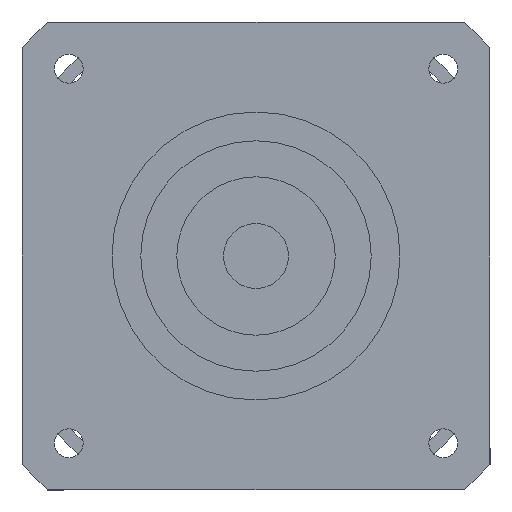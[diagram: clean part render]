
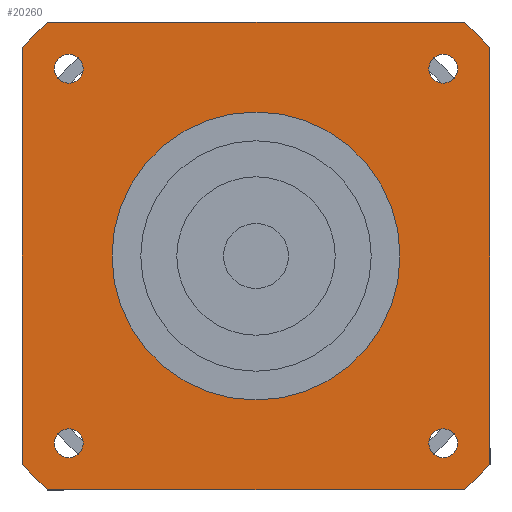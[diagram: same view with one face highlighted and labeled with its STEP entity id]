
A CAD part, left-side view. The second image highlights one B-rep face of the part: STEP entity #20260.
In plain terms, the highlighted planar face has unit normal (-1, 0, 0) as drawn and (0, 0, -1) by its records, which use the part's own axes.
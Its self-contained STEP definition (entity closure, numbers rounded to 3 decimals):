
#11110=CARTESIAN_POINT('',(-32.5,-28.914,-58.));
#11120=VERTEX_POINT('',#11110);
#11280=CARTESIAN_POINT('',(-28.914,-32.5,-58.));
#11290=VERTEX_POINT('',#11280);
#11320=CARTESIAN_POINT('',(0.,0.,
-58.));
#11330=DIRECTION('',(0.,0.,1.));
#11340=DIRECTION('',(0.,-1.,0.));
#11350=AXIS2_PLACEMENT_3D('',#11320,#11330,#11340);
#11360=CIRCLE('',#11350,43.5);
#11370=EDGE_CURVE('',#11120,#11290,#11360,.T.);
#12870=CARTESIAN_POINT('',(-32.5,28.914,-58.));
#12880=VERTEX_POINT('',#12870);
#12980=CARTESIAN_POINT('',(-32.5,32.5,-58.));
#12990=DIRECTION('',(0.,-1.,0.));
#13000=VECTOR('',#12990,1000.);
#13010=LINE('',#12980,#13000);
#13020=EDGE_CURVE('',#12880,#11120,#13010,.T.);
#17850=CARTESIAN_POINT('',(-28.914,32.5,-58.));
#17860=VERTEX_POINT('',#17850);
#17910=CARTESIAN_POINT('',(0.,0.,
-58.));
#17920=DIRECTION('',(0.,0.,1.));
#17930=DIRECTION('',(0.,-1.,0.));
#17940=AXIS2_PLACEMENT_3D('',#17910,#17920,#17930);
#17950=CIRCLE('',#17940,43.5);
#17960=EDGE_CURVE('',#17860,#12880,#17950,.T.);
#18100=CARTESIAN_POINT('',(28.914,32.5,-58.));
#18110=VERTEX_POINT('',#18100);
#18160=CARTESIAN_POINT('',(32.5,32.5,-58.));
#18170=DIRECTION('',(-1.,0.,0.));
#18180=VECTOR('',#18170,1000.);
#18190=LINE('',#18160,#18180);
#18200=EDGE_CURVE('',#18110,#17860,#18190,.T.);
#18310=CARTESIAN_POINT('',(0.,0.,
-58.));
#18320=DIRECTION('',(0.,0.,1.));
#18330=DIRECTION('',(0.,-1.,0.));
#18340=AXIS2_PLACEMENT_3D('',#18310,#18320,#18330);
#18350=CIRCLE('',#18340,43.5);
#18360=CARTESIAN_POINT('',(32.5,28.914,-58.));
#18370=VERTEX_POINT('',#18360);
#18380=EDGE_CURVE('',#18370,#18110,#18350,.T.);
#18590=CARTESIAN_POINT('',(32.5,-28.914,-58.));
#18600=VERTEX_POINT('',#18590);
#18650=CARTESIAN_POINT('',(32.5,-32.5,-58.));
#18660=DIRECTION('',(0.,1.,0.));
#18670=VECTOR('',#18660,1000.);
#18680=LINE('',#18650,#18670);
#18690=EDGE_CURVE('',#18600,#18370,#18680,.T.);
#18830=CARTESIAN_POINT('',(28.914,-32.5,-58.));
#18840=VERTEX_POINT('',#18830);
#18890=CARTESIAN_POINT('',(0.,0.,
-58.));
#18900=DIRECTION('',(0.,0.,1.));
#18910=DIRECTION('',(0.,-1.,0.));
#18920=AXIS2_PLACEMENT_3D('',#18890,#18900,#18910);
#18930=CIRCLE('',#18920,43.5);
#18940=EDGE_CURVE('',#18840,#18600,#18930,.T.);
#19070=CARTESIAN_POINT('',(-32.5,-32.5,-58.));
#19080=DIRECTION('',(1.,0.,0.));
#19090=VECTOR('',#19080,1000.);
#19100=LINE('',#19070,#19090);
#19110=EDGE_CURVE('',#11290,#18840,#19100,.T.);
#19160=CARTESIAN_POINT('',(-32.5,32.5,-58.));
#19170=DIRECTION('',(0.,0.,1.));
#19180=DIRECTION('',(-1.,0.,0.));
#19190=AXIS2_PLACEMENT_3D('',#19160,#19170,#19180);
#19200=PLANE('',#19190);
#19210=CARTESIAN_POINT('',(26.,-26.,-58.));
#19220=DIRECTION('',(0.,0.,-1.));
#19230=DIRECTION('',(1.,0.,0.));
#19240=AXIS2_PLACEMENT_3D('',#19210,#19220,#19230);
#19250=CIRCLE('',#19240,2.);
#19260=CARTESIAN_POINT('',(28.,-26.,-58.));
#19270=VERTEX_POINT('',#19260);
#19280=CARTESIAN_POINT('',(26.,-28.,-58.));
#19290=VERTEX_POINT('',#19280);
#19300=EDGE_CURVE('',#19270,#19290,#19250,.T.);
#19310=ORIENTED_EDGE('',*,*,#19300,.F.);
#19320=CARTESIAN_POINT('',(26.,-24.,-58.));
#19330=VERTEX_POINT('',#19320);
#19340=EDGE_CURVE('',#19290,#19330,#19250,.T.);
#19350=ORIENTED_EDGE('',*,*,#19340,.F.);
#19360=EDGE_CURVE('',#19330,#19270,#19250,.T.);
#19370=ORIENTED_EDGE('',*,*,#19360,.F.);
#19380=EDGE_LOOP('',(#19370,#19350,#19310));
#19390=FACE_BOUND('',#19380,.T.);
#19400=CARTESIAN_POINT('',(26.,26.,-58.));
#19410=DIRECTION('',(0.,0.,-1.));
#19420=DIRECTION('',(0.,1.,0.));
#19430=AXIS2_PLACEMENT_3D('',#19400,#19410,#19420);
#19440=CIRCLE('',#19430,2.);
#19450=CARTESIAN_POINT('',(26.,28.,-58.));
#19460=VERTEX_POINT('',#19450);
#19470=CARTESIAN_POINT('',(28.,26.,-58.));
#19480=VERTEX_POINT('',#19470);
#19490=EDGE_CURVE('',#19460,#19480,#19440,.T.);
#19500=ORIENTED_EDGE('',*,*,#19490,.F.);
#19510=CARTESIAN_POINT('',(24.,26.,-58.));
#19520=VERTEX_POINT('',#19510);
#19530=EDGE_CURVE('',#19480,#19520,#19440,.T.);
#19540=ORIENTED_EDGE('',*,*,#19530,.F.);
#19550=EDGE_CURVE('',#19520,#19460,#19440,.T.);
#19560=ORIENTED_EDGE('',*,*,#19550,.F.);
#19570=EDGE_LOOP('',(#19560,#19540,#19500));
#19580=FACE_BOUND('',#19570,.T.);
#19590=CARTESIAN_POINT('',(-26.,26.,-58.));
#19600=DIRECTION('',(0.,0.,-1.));
#19610=DIRECTION('',(-1.,0.,0.));
#19620=AXIS2_PLACEMENT_3D('',#19590,#19600,#19610);
#19630=CIRCLE('',#19620,2.);
#19640=CARTESIAN_POINT('',(-28.,26.,-58.));
#19650=VERTEX_POINT('',#19640);
#19660=CARTESIAN_POINT('',(-26.,28.,-58.));
#19670=VERTEX_POINT('',#19660);
#19680=EDGE_CURVE('',#19650,#19670,#19630,.T.);
#19690=ORIENTED_EDGE('',*,*,#19680,.F.);
#19700=CARTESIAN_POINT('',(-26.,24.,-58.));
#19710=VERTEX_POINT('',#19700);
#19720=EDGE_CURVE('',#19670,#19710,#19630,.T.);
#19730=ORIENTED_EDGE('',*,*,#19720,.F.);
#19740=EDGE_CURVE('',#19710,#19650,#19630,.T.);
#19750=ORIENTED_EDGE('',*,*,#19740,.F.);
#19760=EDGE_LOOP('',(#19750,#19730,#19690));
#19770=FACE_BOUND('',#19760,.T.);
#19780=CARTESIAN_POINT('',(-26.,-26.,-58.));
#19790=DIRECTION('',(0.,0.,-1.));
#19800=DIRECTION('',(0.,-1.,0.));
#19810=AXIS2_PLACEMENT_3D('',#19780,#19790,#19800);
#19820=CIRCLE('',#19810,2.);
#19830=CARTESIAN_POINT('',(-26.,-28.,-58.));
#19840=VERTEX_POINT('',#19830);
#19850=CARTESIAN_POINT('',(-28.,-26.,-58.));
#19860=VERTEX_POINT('',#19850);
#19870=EDGE_CURVE('',#19840,#19860,#19820,.T.);
#19880=ORIENTED_EDGE('',*,*,#19870,.F.);
#19890=CARTESIAN_POINT('',(-24.,-26.,-58.));
#19900=VERTEX_POINT('',#19890);
#19910=EDGE_CURVE('',#19860,#19900,#19820,.T.);
#19920=ORIENTED_EDGE('',*,*,#19910,.F.);
#19930=EDGE_CURVE('',#19900,#19840,#19820,.T.);
#19940=ORIENTED_EDGE('',*,*,#19930,.F.);
#19950=EDGE_LOOP('',(#19940,#19920,#19880));
#19960=FACE_BOUND('',#19950,.T.);
#19970=ORIENTED_EDGE('',*,*,#11370,.F.);
#19980=ORIENTED_EDGE('',*,*,#19110,.F.);
#19990=ORIENTED_EDGE('',*,*,#18940,.F.);
#20000=ORIENTED_EDGE('',*,*,#18690,.F.);
#20010=ORIENTED_EDGE('',*,*,#18380,.F.);
#20020=ORIENTED_EDGE('',*,*,#18200,.F.);
#20030=ORIENTED_EDGE('',*,*,#17960,.F.);
#20040=ORIENTED_EDGE('',*,*,#13020,.F.);
#20050=EDGE_LOOP('',(#20040,#20030,#20020,#20010,#20000,#19990,#19980,
#19970));
#20060=FACE_OUTER_BOUND('',#20050,.T.);
#20070=CARTESIAN_POINT('',(0.,0.,
-58.));
#20080=DIRECTION('',(0.,0.,1.));
#20090=DIRECTION('',(0.,-1.,0.));
#20100=AXIS2_PLACEMENT_3D('',#20070,#20080,#20090);
#20110=CIRCLE('',#20100,20.);
#20120=CARTESIAN_POINT('',(20.,0.,-58.));
#20130=VERTEX_POINT('',#20120);
#20140=CARTESIAN_POINT('',(-20.,0.,-58.));
#20150=VERTEX_POINT('',#20140);
#20160=EDGE_CURVE('',#20130,#20150,#20110,.T.);
#20170=ORIENTED_EDGE('',*,*,#20160,.T.);
#20180=CARTESIAN_POINT('',(0.,-20.,-58.));
#20190=VERTEX_POINT('',#20180);
#20200=EDGE_CURVE('',#20190,#20130,#20110,.T.);
#20210=ORIENTED_EDGE('',*,*,#20200,.T.);
#20220=EDGE_CURVE('',#20150,#20190,#20110,.T.);
#20230=ORIENTED_EDGE('',*,*,#20220,.T.);
#20240=EDGE_LOOP('',(#20230,#20210,#20170));
#20250=FACE_BOUND('',#20240,.T.);
#20260=ADVANCED_FACE('',(#19390,#19580,#19770,#19960,#20060,#20250),
#19200,.F.);
